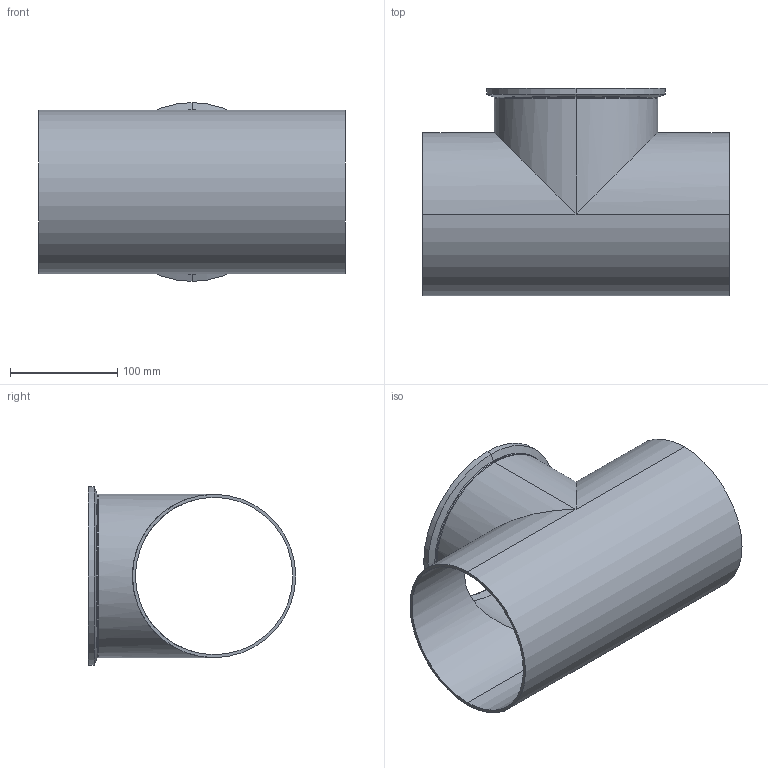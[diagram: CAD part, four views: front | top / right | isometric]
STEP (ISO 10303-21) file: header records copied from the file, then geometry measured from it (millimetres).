
FILE_DESCRIPTION (( 'STEP AP214' ), '1' );
FILE_NAME ('TE7WWCS6L6.0-...STEP', '2016-05-24T12:16:59', ( 'eran' ), ( '' ), 'SwSTEP 2.0', 'SolidWorks 2016', '' );
FILE_SCHEMA (( 'AUTOMOTIVE_DESIGN' ));
Length unit declared in the file: millimetre
Products named in the file (1): TE7WWCS6L6.0-..
Bounding box: 285.8 x 193.7 x 166.88 mm (x, y, z)
Volume: 425439.4 mm3; surface area: 302669 mm2
Topology: 2 solids, 2 shells, 38 faces, 92 edges, 58 vertices
Faces by surface type: cylinder 16, bspline 10, plane 6, cone 6
Entity records: 2264 total; most frequent: CARTESIAN_POINT 1329, DIRECTION 198, ORIENTED_EDGE 184, EDGE_CURVE 92, AXIS2_PLACEMENT_3D 87, VERTEX_POINT 58, CIRCLE 58, EDGE_LOOP 44
